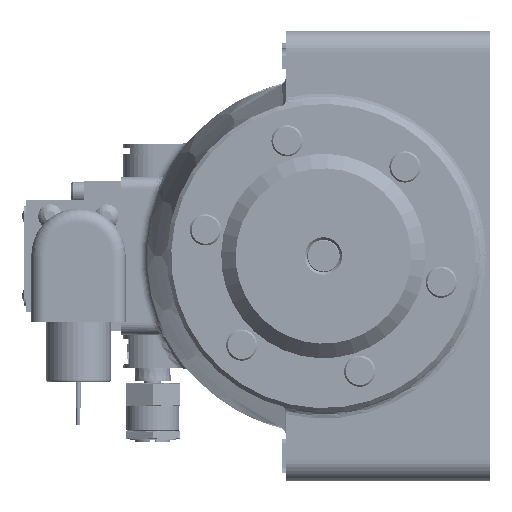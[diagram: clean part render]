
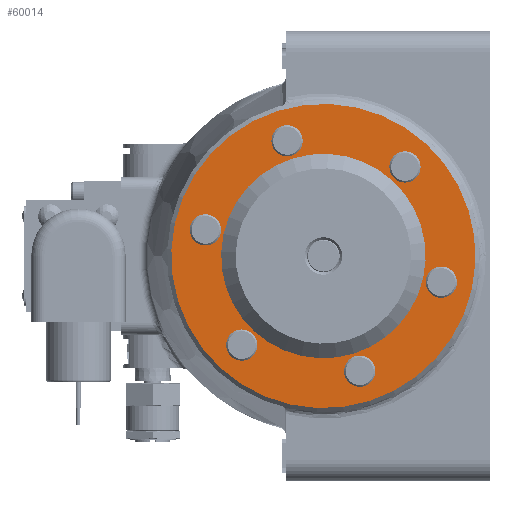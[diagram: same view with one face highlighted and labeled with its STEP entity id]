
A CAD part, left-side view. The second image highlights one B-rep face of the part: STEP entity #60014.
In plain terms, the highlighted planar face has unit normal (-1, 0, 0).
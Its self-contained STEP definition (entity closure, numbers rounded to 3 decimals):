
#1084=FACE_BOUND('',#11543,.T.);
#1085=FACE_BOUND('',#11544,.T.);
#1086=FACE_BOUND('',#11545,.T.);
#1087=FACE_BOUND('',#11546,.T.);
#1088=FACE_BOUND('',#11547,.T.);
#1089=FACE_BOUND('',#11548,.T.);
#1090=FACE_BOUND('',#11549,.T.);
#4176=CIRCLE('',#65166,0.595);
#4179=CIRCLE('',#65179,0.595);
#4182=CIRCLE('',#65192,0.595);
#4185=CIRCLE('',#65205,0.595);
#4188=CIRCLE('',#65218,0.595);
#4191=CIRCLE('',#65231,0.595);
#4206=CIRCLE('',#65265,5.798);
#4211=CIRCLE('',#65272,3.896);
#4212=CIRCLE('',#65273,3.896);
#7920=FACE_OUTER_BOUND('',#11542,.T.);
#11542=EDGE_LOOP('',(#49148));
#11543=EDGE_LOOP('',(#49149));
#11544=EDGE_LOOP('',(#49150));
#11545=EDGE_LOOP('',(#49151));
#11546=EDGE_LOOP('',(#49152));
#11547=EDGE_LOOP('',(#49153));
#11548=EDGE_LOOP('',(#49154));
#11549=EDGE_LOOP('',(#49155,#49156));
#26174=VERTEX_POINT('',#106846);
#26189=VERTEX_POINT('',#106894);
#26204=VERTEX_POINT('',#106942);
#26219=VERTEX_POINT('',#106990);
#26234=VERTEX_POINT('',#107038);
#26249=VERTEX_POINT('',#107086);
#26283=VERTEX_POINT('',#107299);
#26288=VERTEX_POINT('',#107313);
#26289=VERTEX_POINT('',#107314);
#34014=EDGE_CURVE('',#26174,#26174,#4176,.T.);
#34037=EDGE_CURVE('',#26189,#26189,#4179,.T.);
#34060=EDGE_CURVE('',#26204,#26204,#4182,.T.);
#34083=EDGE_CURVE('',#26219,#26219,#4185,.T.);
#34106=EDGE_CURVE('',#26234,#26234,#4188,.T.);
#34129=EDGE_CURVE('',#26249,#26249,#4191,.T.);
#34177=EDGE_CURVE('',#26283,#26283,#4206,.T.);
#34184=EDGE_CURVE('',#26288,#26289,#4211,.T.);
#34185=EDGE_CURVE('',#26289,#26288,#4212,.T.);
#49148=ORIENTED_EDGE('',*,*,#34177,.F.);
#49149=ORIENTED_EDGE('',*,*,#34014,.T.);
#49150=ORIENTED_EDGE('',*,*,#34037,.T.);
#49151=ORIENTED_EDGE('',*,*,#34060,.T.);
#49152=ORIENTED_EDGE('',*,*,#34083,.T.);
#49153=ORIENTED_EDGE('',*,*,#34106,.T.);
#49154=ORIENTED_EDGE('',*,*,#34129,.T.);
#49155=ORIENTED_EDGE('',*,*,#34184,.F.);
#49156=ORIENTED_EDGE('',*,*,#34185,.F.);
#54849=PLANE('',#65271);
#60014=ADVANCED_FACE('',(#7920,#1084,#1085,#1086,#1087,#1088,#1089,#1090),
#54849,.T.);
#65166=AXIS2_PLACEMENT_3D('',#106848,#78783,#78784);
#65179=AXIS2_PLACEMENT_3D('',#106896,#78829,#78830);
#65192=AXIS2_PLACEMENT_3D('',#106944,#78875,#78876);
#65205=AXIS2_PLACEMENT_3D('',#106992,#78921,#78922);
#65218=AXIS2_PLACEMENT_3D('',#107040,#78967,#78968);
#65231=AXIS2_PLACEMENT_3D('',#107088,#79013,#79014);
#65265=AXIS2_PLACEMENT_3D('',#107300,#79108,#79109);
#65271=AXIS2_PLACEMENT_3D('',#107312,#79122,#79123);
#65272=AXIS2_PLACEMENT_3D('',#107315,#79124,#79125);
#65273=AXIS2_PLACEMENT_3D('',#107316,#79126,#79127);
#78783=DIRECTION('center_axis',(1.,0.,0.));
#78784=DIRECTION('ref_axis',(0.,0.866,-0.5));
#78829=DIRECTION('center_axis',(1.,0.,0.));
#78830=DIRECTION('ref_axis',(0.,0.866,0.5));
#78875=DIRECTION('center_axis',(1.,0.,0.));
#78876=DIRECTION('ref_axis',(0.,0.,
1.));
#78921=DIRECTION('center_axis',(1.,0.,0.));
#78922=DIRECTION('ref_axis',(0.,-0.866,0.5));
#78967=DIRECTION('center_axis',(1.,0.,0.));
#78968=DIRECTION('ref_axis',(0.,-0.866,-0.5));
#79013=DIRECTION('center_axis',(1.,0.,0.));
#79014=DIRECTION('ref_axis',(0.,0.,
-1.));
#79108=DIRECTION('center_axis',(1.,0.,0.));
#79109=DIRECTION('ref_axis',(0.,-0.954,0.301));
#79122=DIRECTION('center_axis',(-1.,0.,0.));
#79123=DIRECTION('ref_axis',(0.,0.301,0.954));
#79124=DIRECTION('center_axis',(-1.,0.,0.));
#79125=DIRECTION('ref_axis',(0.,0.954,-0.301));
#79126=DIRECTION('center_axis',(-1.,0.,0.));
#79127=DIRECTION('ref_axis',(0.,0.954,-0.301));
#106846=CARTESIAN_POINT('',(-16.398,0.869,4.688));
#106848=CARTESIAN_POINT('Origin',(-16.398,1.384,4.391));
#106894=CARTESIAN_POINT('',(-16.398,-3.626,3.097));
#106896=CARTESIAN_POINT('Origin',(-16.398,-3.11,3.394));
#106942=CARTESIAN_POINT('',(-16.398,-4.495,-1.592));
#106944=CARTESIAN_POINT('Origin',(-16.398,-4.495,-0.996));
#106990=CARTESIAN_POINT('',(-16.398,-0.869,-4.688));
#106992=CARTESIAN_POINT('Origin',(-16.398,-1.384,-4.391));
#107038=CARTESIAN_POINT('',(-16.398,3.626,-3.097));
#107040=CARTESIAN_POINT('Origin',(-16.398,3.11,-3.394));
#107086=CARTESIAN_POINT('',(-16.398,4.495,1.592));
#107088=CARTESIAN_POINT('Origin',(-16.398,4.495,0.996));
#107299=CARTESIAN_POINT('',(-16.398,5.529,-1.743));
#107300=CARTESIAN_POINT('Origin',(-16.398,0.,0.));
#107312=CARTESIAN_POINT('Origin',(-16.398,4.698,-1.481));
#107313=CARTESIAN_POINT('',(-16.398,3.716,-1.172));
#107314=CARTESIAN_POINT('',(-16.398,-3.716,1.172));
#107315=CARTESIAN_POINT('Origin',(-16.398,0.,0.));
#107316=CARTESIAN_POINT('Origin',(-16.398,0.,0.));
